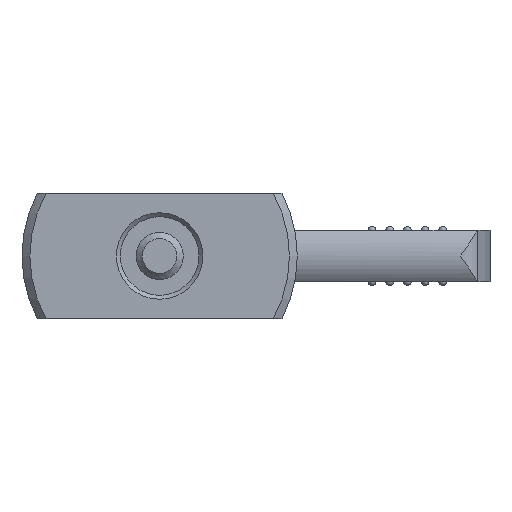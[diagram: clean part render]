
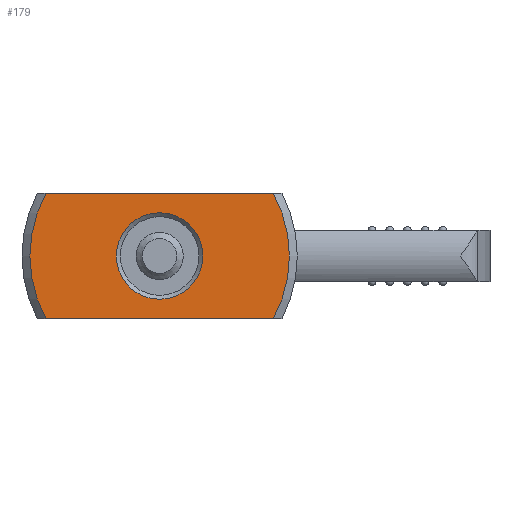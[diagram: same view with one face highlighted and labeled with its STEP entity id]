
A CAD part, front view. The second image highlights one B-rep face of the part: STEP entity #179.
In plain terms, the highlighted planar face has unit normal (0, -1, 0).
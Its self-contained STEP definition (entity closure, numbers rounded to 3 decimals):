
#179 = ADVANCED_FACE( '', ( #301, #302 ), #303, .F. );
#301 = FACE_BOUND( '', #555, .T. );
#302 = FACE_OUTER_BOUND( '', #556, .T. );
#303 = PLANE( '', #557 );
#555 = EDGE_LOOP( '', ( #852 ) );
#556 = EDGE_LOOP( '', ( #853, #854, #855, #856 ) );
#557 = AXIS2_PLACEMENT_3D( '', #857, #858, #859 );
#852 = ORIENTED_EDGE( '', *, *, #1521, .F. );
#853 = ORIENTED_EDGE( '', *, *, #1528, .T. );
#854 = ORIENTED_EDGE( '', *, *, #1529, .T. );
#855 = ORIENTED_EDGE( '', *, *, #1530, .T. );
#856 = ORIENTED_EDGE( '', *, *, #1531, .T. );
#857 = CARTESIAN_POINT( '', ( 16.5, 0., 0. ) );
#858 = DIRECTION( '', ( 0., 1., 0. ) );
#859 = DIRECTION( '', ( 0., 0., 1. ) );
#1521 = EDGE_CURVE( '', #1745, #1745, #1746, .T. );
#1528 = EDGE_CURVE( '', #1759, #1760, #1761, .T. );
#1529 = EDGE_CURVE( '', #1760, #1762, #1763, .T. );
#1530 = EDGE_CURVE( '', #1762, #1764, #1765, .T. );
#1531 = EDGE_CURVE( '', #1764, #1759, #1766, .T. );
#1745 = VERTEX_POINT( '', #2260 );
#1746 = CIRCLE( '', #2261, 5.5 );
#1759 = VERTEX_POINT( '', #2274 );
#1760 = VERTEX_POINT( '', #2275 );
#1761 = CIRCLE( '', #2276, 16.5 );
#1762 = VERTEX_POINT( '', #2277 );
#1763 = LINE( '', #2278, #2279 );
#1764 = VERTEX_POINT( '', #2280 );
#1765 = CIRCLE( '', #2281, 16.5 );
#1766 = LINE( '', #2282, #2283 );
#2260 = CARTESIAN_POINT( '', ( 0., 0., -5.5 ) );
#2261 = AXIS2_PLACEMENT_3D( '', #2774, #2775, #2776 );
#2274 = CARTESIAN_POINT( '', ( -14.431, 0., 8. ) );
#2275 = CARTESIAN_POINT( '', ( -14.431, 0., -8. ) );
#2276 = AXIS2_PLACEMENT_3D( '', #2795, #2796, #2797 );
#2277 = CARTESIAN_POINT( '', ( 14.431, 0., -8. ) );
#2278 = CARTESIAN_POINT( '', ( 16.5, 0., -8. ) );
#2279 = VECTOR( '', #2798, 1000. );
#2280 = CARTESIAN_POINT( '', ( 14.431, 0., 8. ) );
#2281 = AXIS2_PLACEMENT_3D( '', #2799, #2800, #2801 );
#2282 = CARTESIAN_POINT( '', ( 16.5, 0., 8. ) );
#2283 = VECTOR( '', #2802, 1000. );
#2774 = CARTESIAN_POINT( '', ( 0., 0., 0. ) );
#2775 = DIRECTION( '', ( 0., -1., 0. ) );
#2776 = DIRECTION( '', ( 0., 0., -1. ) );
#2795 = CARTESIAN_POINT( '', ( 0., 0., 0. ) );
#2796 = DIRECTION( '', ( 0., -1., 0. ) );
#2797 = DIRECTION( '', ( 0., 0., -1. ) );
#2798 = DIRECTION( '', ( 1., 0., 0. ) );
#2799 = CARTESIAN_POINT( '', ( 0., 0., 0. ) );
#2800 = DIRECTION( '', ( 0., -1., 0. ) );
#2801 = DIRECTION( '', ( 0., 0., -1. ) );
#2802 = DIRECTION( '', ( -1., 0., 0. ) );
